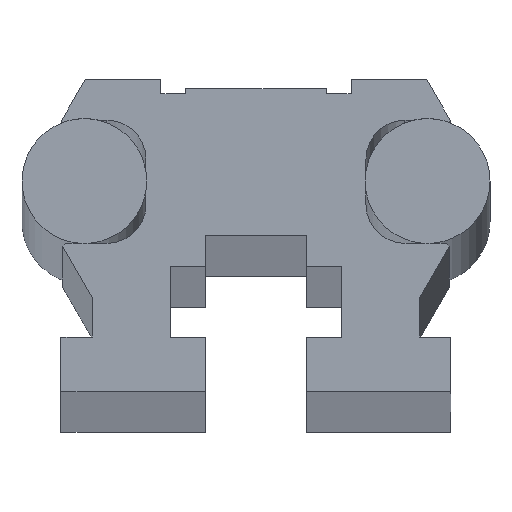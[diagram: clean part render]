
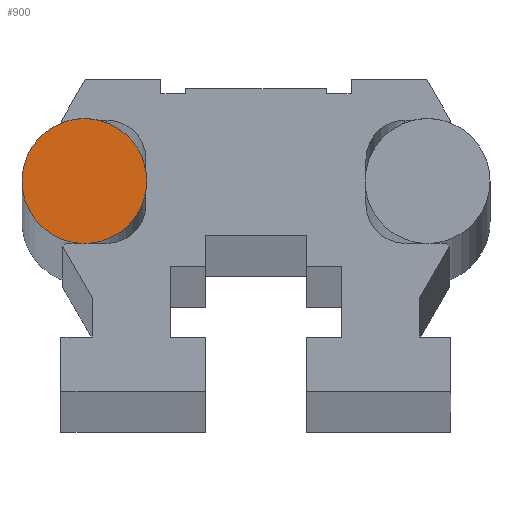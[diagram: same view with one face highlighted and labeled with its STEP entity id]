
A CAD part, top view. The second image highlights one B-rep face of the part: STEP entity #900.
In plain terms, the highlighted planar face has unit normal (0, 0, 1).
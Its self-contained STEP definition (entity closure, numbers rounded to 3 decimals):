
#39 = VERTEX_POINT ( 'NONE', #1028 ) ;
#48 = VERTEX_POINT ( 'NONE', #1010 ) ;
#50 = EDGE_CURVE ( 'NONE', #48, #51, #1009, .T. ) ;
#51 = VERTEX_POINT ( 'NONE', #1229 ) ;
#80 = VERTEX_POINT ( 'NONE', #1170 ) ;
#89 = VERTEX_POINT ( 'NONE', #1121 ) ;
#91 = EDGE_CURVE ( 'NONE', #92, #89, #1120, .T. ) ;
#92 = VERTEX_POINT ( 'NONE', #1115 ) ;
#201 = EDGE_CURVE ( 'NONE', #39, #80, #1513, .T. ) ;
#295 = EDGE_CURVE ( 'NONE', #296, #39, #1476, .T. ) ;
#296 = VERTEX_POINT ( 'NONE', #1467 ) ;
#739 = EDGE_CURVE ( 'NONE', #89, #296, #2187, .T. ) ;
#785 = ORIENTED_EDGE ( 'NONE', *, *, #91, .T. ) ;
#786 = ORIENTED_EDGE ( 'NONE', *, *, #739, .T. ) ;
#787 = ORIENTED_EDGE ( 'NONE', *, *, #295, .T. ) ;
#899 = EDGE_CURVE ( 'NONE', #48, #92, #2324, .T. ) ;
#900 = ADVANCED_FACE ( 'NONE', ( #2319 ), #2318, .T. ) ;
#901 = EDGE_LOOP ( 'NONE', ( #902, #903, #904, #905, #785, #786, #787 ) ) ;
#902 = ORIENTED_EDGE ( 'NONE', *, *, #201, .T. ) ;
#903 = ORIENTED_EDGE ( 'NONE', *, *, #951, .T. ) ;
#904 = ORIENTED_EDGE ( 'NONE', *, *, #50, .F. ) ;
#905 = ORIENTED_EDGE ( 'NONE', *, *, #899, .T. ) ;
#951 = EDGE_CURVE ( 'NONE', #80, #51, #2346, .T. ) ;
#1008 = CARTESIAN_POINT ( 'NONE',  ( -11., 13.5, -1.5 ) ) ;
#1009 = CIRCLE ( 'NONE', #1232, 4. ) ;
#1010 = CARTESIAN_POINT ( 'NONE',  ( -11.25, 9.508, -1.5 ) ) ;
#1028 = CARTESIAN_POINT ( 'NONE',  ( -7.05, 14.13, -1.5 ) ) ;
#1115 = CARTESIAN_POINT ( 'NONE',  ( -10.75, 9.508, -1.5 ) ) ;
#1116 = DIRECTION ( 'NONE',  ( 1., 0., 0. ) ) ;
#1117 = DIRECTION ( 'NONE',  ( 0., 0., 1. ) ) ;
#1118 = CARTESIAN_POINT ( 'NONE',  ( -11., 13.5, -1.5 ) ) ;
#1119 = AXIS2_PLACEMENT_3D ( 'NONE', #1118, #1117, #1116 ) ;
#1120 = CIRCLE ( 'NONE', #1119, 4. ) ;
#1121 = CARTESIAN_POINT ( 'NONE',  ( -7.05, 12.87, -1.5 ) ) ;
#1170 = CARTESIAN_POINT ( 'NONE',  ( -10.111, 17.4, -1.5 ) ) ;
#1229 = CARTESIAN_POINT ( 'NONE',  ( -12.324, 17.275, -1.5 ) ) ;
#1230 = DIRECTION ( 'NONE',  ( 1., 0., 0. ) ) ;
#1231 = DIRECTION ( 'NONE',  ( 0., 0., -1. ) ) ;
#1232 = AXIS2_PLACEMENT_3D ( 'NONE', #1008, #1231, #1230 ) ;
#1467 = CARTESIAN_POINT ( 'NONE',  ( -7., 13.5, -1.5 ) ) ;
#1468 = DIRECTION ( 'NONE',  ( 1., 0., 0. ) ) ;
#1469 = DIRECTION ( 'NONE',  ( 0., 0., 1. ) ) ;
#1470 = CARTESIAN_POINT ( 'NONE',  ( -11., 13.5, -1.5 ) ) ;
#1471 = AXIS2_PLACEMENT_3D ( 'NONE', #1470, #1469, #1468 ) ;
#1476 = CIRCLE ( 'NONE', #1471, 4. ) ;
#1509 = DIRECTION ( 'NONE',  ( 1., 0., 0. ) ) ;
#1510 = DIRECTION ( 'NONE',  ( 0., 0., 1. ) ) ;
#1511 = CARTESIAN_POINT ( 'NONE',  ( -11., 13.5, -1.5 ) ) ;
#1512 = AXIS2_PLACEMENT_3D ( 'NONE', #1511, #1510, #1509 ) ;
#1513 = CIRCLE ( 'NONE', #1512, 4. ) ;
#2184 = DIRECTION ( 'NONE',  ( 1., 0., 0. ) ) ;
#2185 = DIRECTION ( 'NONE',  ( 0., 0., 1. ) ) ;
#2186 = AXIS2_PLACEMENT_3D ( 'NONE', #2192, #2185, #2184 ) ;
#2187 = CIRCLE ( 'NONE', #2186, 4. ) ;
#2192 = CARTESIAN_POINT ( 'NONE',  ( -11., 13.5, -1.5 ) ) ;
#2314 = DIRECTION ( 'NONE',  ( 1., 0., 0. ) ) ;
#2315 = DIRECTION ( 'NONE',  ( 0., 0., 1. ) ) ;
#2316 = CARTESIAN_POINT ( 'NONE',  ( -11., 13.5, -1.5 ) ) ;
#2317 = AXIS2_PLACEMENT_3D ( 'NONE', #2316, #2315, #2314 ) ;
#2318 = PLANE ( 'NONE',  #2317 ) ;
#2319 = FACE_OUTER_BOUND ( 'NONE', #901, .T. ) ;
#2320 = DIRECTION ( 'NONE',  ( 1., 0., 0. ) ) ;
#2321 = DIRECTION ( 'NONE',  ( 0., 0., 1. ) ) ;
#2322 = CARTESIAN_POINT ( 'NONE',  ( -11., 13.5, -1.5 ) ) ;
#2323 = AXIS2_PLACEMENT_3D ( 'NONE', #2322, #2321, #2320 ) ;
#2324 = CIRCLE ( 'NONE', #2323, 4. ) ;
#2342 = DIRECTION ( 'NONE',  ( 1., 0., 0. ) ) ;
#2343 = DIRECTION ( 'NONE',  ( 0., 0., 1. ) ) ;
#2344 = CARTESIAN_POINT ( 'NONE',  ( -11., 13.5, -1.5 ) ) ;
#2345 = AXIS2_PLACEMENT_3D ( 'NONE', #2344, #2343, #2342 ) ;
#2346 = CIRCLE ( 'NONE', #2345, 4. ) ;
